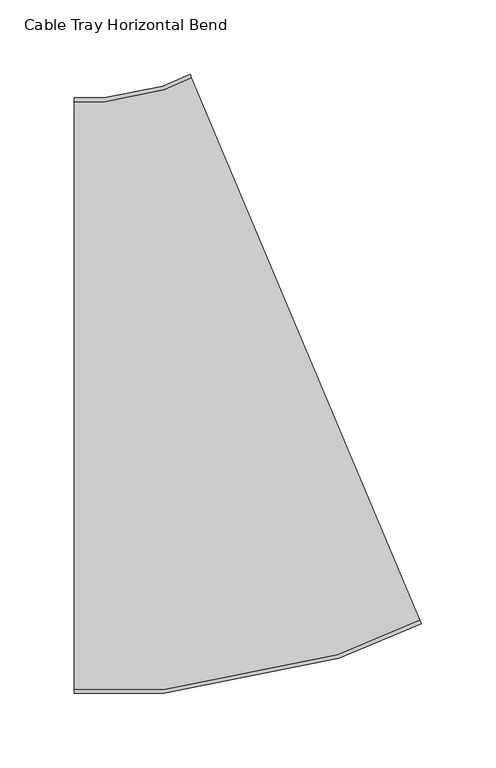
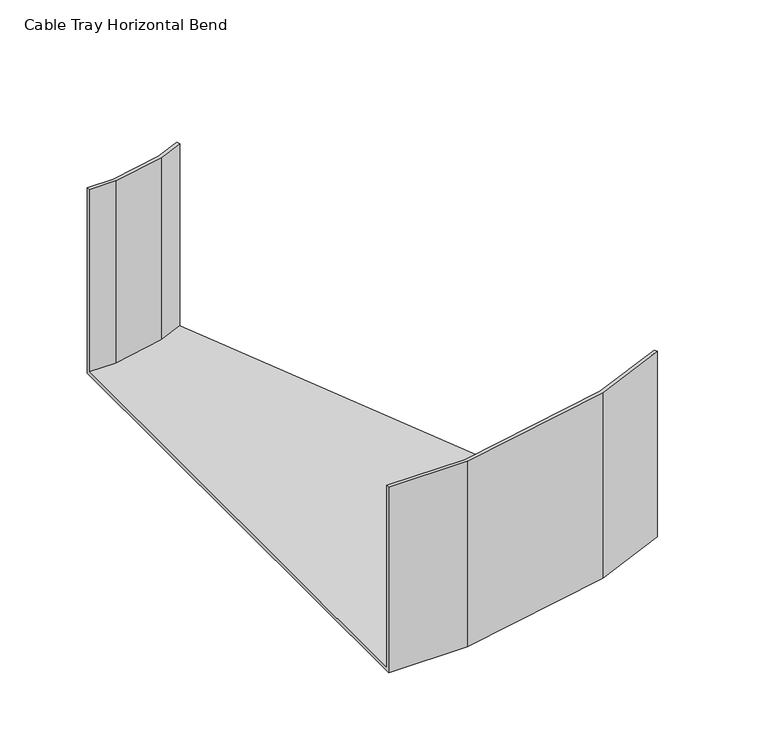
"""IFC4 building model written with IfcOpenShell, lengths in millimetres: cable carrier fitting geometry, Cable Tray Horizontal Bend : ELEC_ELV_TKG_N2402."""

from ifc_helpers import new_model, si_unit, origin, place, context, project, spatial, faceted_brep, source, transform, mapped, element, save


def cable_tray_horizontal_bend_cfc82d94(model_context):
    return source(origin(), model_context, "Body", "Brep", [
        faceted_brep([(-80.7391227, -200.0, -75.0), (-80.7391227, -200.0, 75.0), (-80.7391227, -197.46, 75.0), (-80.7391227, -197.46, -72.46), (-80.7391227, 197.46, -72.46), (-80.7391227, 197.46, 75.0), (-80.7391227, 200.0, 75.0), (-80.7391227, 200.0, -75.0), (151.996025, -153.0229209, -75.0), (-3.1607401, 215.6590264, -75.0), (-3.1607401, 215.6590264, 75.0), (-2.1754947, 213.317896, 75.0), (-2.1754947, 213.317896, -72.46), (151.0107796, -150.6817905, -72.46), (151.0107796, -150.6817905, 75.0), (151.996025, -153.0229209, 75.0), (-20.7893115, -200.0, -75.0), (-20.7893115, -200.0, 75.0), (96.7399922, -176.2769678, 75.0), (95.9886639, -173.8373953, 75.0), (-21.043099, -197.46, 75.0), (-21.043099, -197.46, -72.46), (95.9886639, -173.8373953, -72.46), (-20.8280895, 205.4681049, -72.46), (-60.5020648, 197.46, -72.46), (-60.5020648, 197.46, 75.0), (-20.8280895, 205.4681049, 75.0), (-21.5794178, 207.9076774, 75.0), (-60.7558523, 200.0, 75.0), (-60.7558523, 200.0, -75.0), (-21.5794178, 207.9076774, -75.0), (96.7399922, -176.2769678, -75.0)], [[[0, 1, 2, 3, 4, 5, 6, 7]], [[8, 9, 10, 11, 12, 13, 14, 15]], [[1, 0, 16, 17]], [[2, 1, 17, 18, 15, 14, 19, 20]], [[3, 2, 20, 21]], [[4, 3, 21, 22, 13, 12, 23, 24]], [[5, 4, 24, 25]], [[6, 5, 25, 26, 11, 10, 27, 28]], [[7, 6, 28, 29]], [[0, 7, 29, 30, 9, 8, 31, 16]], [[17, 16, 31, 18]], [[21, 20, 19, 22]], [[25, 24, 23, 26]], [[29, 28, 27, 30]], [[18, 31, 8, 15]], [[22, 19, 14, 13]], [[26, 23, 12, 11]], [[30, 27, 10, 9]]]),
    ])


if __name__ == "__main__":
    model = new_model("IFC4")
    model_context = context("Model", 3, world=origin())
    ifc_project = project(units=[si_unit("LENGTHUNIT", "METRE", prefix="MILLI")], contexts=[model_context])
    site = spatial("IfcSite", under=ifc_project)
    building = spatial("IfcBuilding", under=site)
    placement = place(None, origin())
    cable_tray_horizontal_bend_shape = cable_tray_horizontal_bend_cfc82d94(model_context)
    element("IfcCableCarrierFitting", 1, ObjectType="Cable Tray Horizontal Bend : ELEC_ELV_TKG_N2402", at=placement, inside=building, context=model_context, shape_type="MappedRepresentation", body=[
        mapped(cable_tray_horizontal_bend_shape, transform((0.0, 0.0, 0.0), x_axis=(1.0, 0.0, 0.0), y_axis=(0.0, 1.0, 0.0), z_axis=(0.0, 0.0, 1.0))),
    ])
    save(model, "model.ifc")
